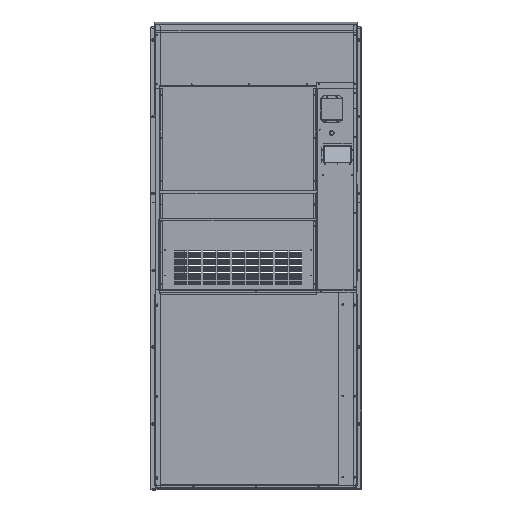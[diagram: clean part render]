
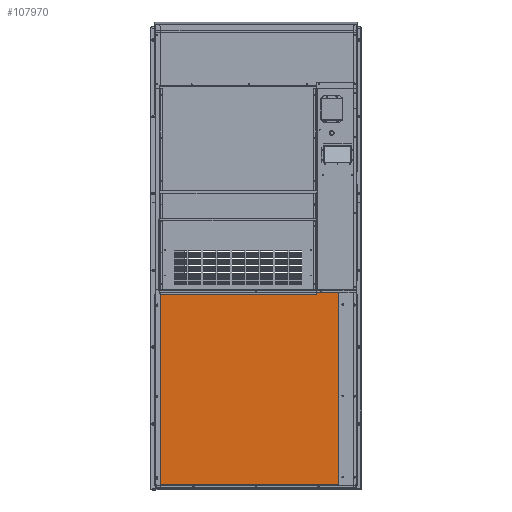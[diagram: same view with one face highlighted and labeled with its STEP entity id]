
A CAD part, top view. The second image highlights one B-rep face of the part: STEP entity #107970.
In plain terms, the highlighted planar face has unit normal (0, 0, 1).
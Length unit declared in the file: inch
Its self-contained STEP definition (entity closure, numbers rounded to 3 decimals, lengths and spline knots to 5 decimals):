
#2447 = VECTOR ( 'NONE', #27997, 39.37008 ) ;
#5635 = DIRECTION ( 'NONE',  ( 0., -1., 0. ) ) ;
#8902 = CARTESIAN_POINT ( 'NONE',  ( 9.60615, 40.76556, -123.59166 ) ) ;
#11455 = ORIENTED_EDGE ( 'NONE', *, *, #74150, .T. ) ;
#15746 = CARTESIAN_POINT ( 'NONE',  ( 46.67915, 0.62256, -123.59166 ) ) ;
#18821 = VECTOR ( 'NONE', #107339, 39.37008 ) ;
#18995 = VECTOR ( 'NONE', #19102, 39.37008 ) ;
#19102 = DIRECTION ( 'NONE',  ( -1., 0., 0. ) ) ;
#22446 = CARTESIAN_POINT ( 'NONE',  ( 46.67915, 40.76556, -123.59166 ) ) ;
#22931 = LINE ( 'NONE', #61938, #120740 ) ;
#25803 = VERTEX_POINT ( 'NONE', #72365 ) ;
#27997 = DIRECTION ( 'NONE',  ( 0., -1., 0. ) ) ;
#29238 = EDGE_LOOP ( 'NONE', ( #38185, #59976, #39855, #11455 ) ) ;
#33899 = CARTESIAN_POINT ( 'NONE',  ( 9.60615, 40.76556, -123.59166 ) ) ;
#34320 = VERTEX_POINT ( 'NONE', #69469 ) ;
#38185 = ORIENTED_EDGE ( 'NONE', *, *, #69377, .T. ) ;
#39855 = ORIENTED_EDGE ( 'NONE', *, *, #109434, .T. ) ;
#44061 = LINE ( 'NONE', #22446, #18821 ) ;
#47754 = VERTEX_POINT ( 'NONE', #15746 ) ;
#59976 = ORIENTED_EDGE ( 'NONE', *, *, #108560, .T. ) ;
#61938 = CARTESIAN_POINT ( 'NONE',  ( 9.60615, 0.62256, -123.59166 ) ) ;
#62412 = DIRECTION ( 'NONE',  ( 0., 0., 1. ) ) ;
#69377 = EDGE_CURVE ( 'NONE', #47754, #34320, #44061, .T. ) ;
#69469 = CARTESIAN_POINT ( 'NONE',  ( 46.67915, 40.76556, -123.59166 ) ) ;
#69737 = AXIS2_PLACEMENT_3D ( 'NONE', #33899, #62412, #5635 ) ;
#70237 = VERTEX_POINT ( 'NONE', #80353 ) ;
#72365 = CARTESIAN_POINT ( 'NONE',  ( 9.60615, 0.62256, -123.59166 ) ) ;
#74150 = EDGE_CURVE ( 'NONE', #25803, #47754, #22931, .T. ) ;
#75779 = CARTESIAN_POINT ( 'NONE',  ( 9.60615, 40.76556, -123.59166 ) ) ;
#78044 = LINE ( 'NONE', #8902, #2447 ) ;
#80353 = CARTESIAN_POINT ( 'NONE',  ( 9.60615, 40.76556, -123.59166 ) ) ;
#84363 = FACE_OUTER_BOUND ( 'NONE', #29238, .T. ) ;
#91625 = LINE ( 'NONE', #75779, #18995 ) ;
#100069 = PLANE ( 'NONE',  #69737 ) ;
#107339 = DIRECTION ( 'NONE',  ( 0., 1., 0. ) ) ;
#107970 = ADVANCED_FACE ( 'NONE', ( #84363 ), #100069, .T. ) ;
#108560 = EDGE_CURVE ( 'NONE', #34320, #70237, #91625, .T. ) ;
#109434 = EDGE_CURVE ( 'NONE', #70237, #25803, #78044, .T. ) ;
#109541 = DIRECTION ( 'NONE',  ( 1., 0., 0. ) ) ;
#120740 = VECTOR ( 'NONE', #109541, 39.37008 ) ;
